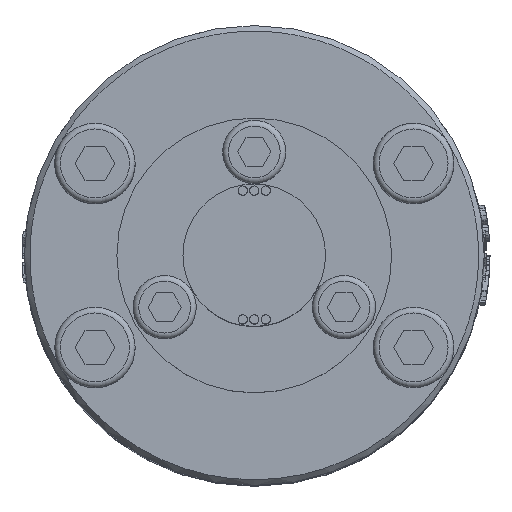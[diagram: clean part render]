
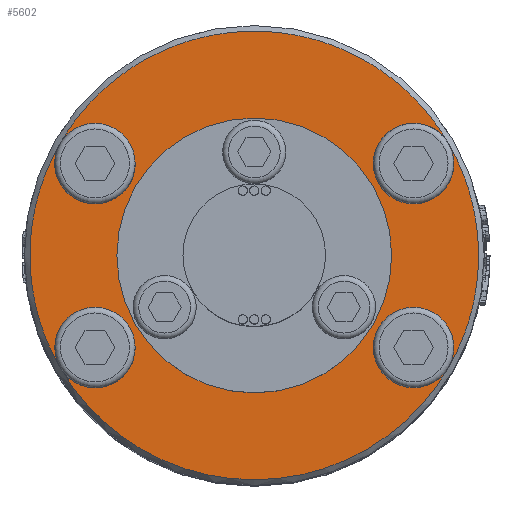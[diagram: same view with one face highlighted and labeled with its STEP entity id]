
A CAD part, top view. The second image highlights one B-rep face of the part: STEP entity #5602.
In plain terms, the highlighted planar face has unit normal (0, 0, 1).
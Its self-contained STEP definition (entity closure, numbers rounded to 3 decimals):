
#5196=FACE_BOUND('',#8340,.T.);
#5197=FACE_BOUND('',#8341,.T.);
#5602=ADVANCED_FACE('',(#5196,#5197),#6772,.T.);
#6772=PLANE('',#21143);
#8340=EDGE_LOOP('',(#9884,#9885,#9886,#9887,#9888,#9889,#9890,#9891));
#8341=EDGE_LOOP('',(#9892));
#9884=ORIENTED_EDGE('',*,*,#17884,.T.);
#9885=ORIENTED_EDGE('',*,*,#17804,.F.);
#9886=ORIENTED_EDGE('',*,*,#17883,.T.);
#9887=ORIENTED_EDGE('',*,*,#17867,.F.);
#9888=ORIENTED_EDGE('',*,*,#17882,.T.);
#9889=ORIENTED_EDGE('',*,*,#17846,.F.);
#9890=ORIENTED_EDGE('',*,*,#17885,.T.);
#9891=ORIENTED_EDGE('',*,*,#17825,.F.);
#9892=ORIENTED_EDGE('',*,*,#17791,.F.);
#15725=VERTEX_POINT('',#25065);
#15738=VERTEX_POINT('',#25101);
#15753=VERTEX_POINT('',#25147);
#15768=VERTEX_POINT('',#25193);
#15783=VERTEX_POINT('',#25239);
#17791=EDGE_CURVE('',#15725,#15725,#20808,.T.);
#17804=EDGE_CURVE('',#15738,#15738,#20815,.T.);
#17825=EDGE_CURVE('',#15753,#15753,#20818,.T.);
#17846=EDGE_CURVE('',#15768,#15768,#20821,.T.);
#17867=EDGE_CURVE('',#15783,#15783,#20824,.T.);
#17882=EDGE_CURVE('',#15783,#15768,#20827,.T.);
#17883=EDGE_CURVE('',#15738,#15783,#20828,.T.);
#17884=EDGE_CURVE('',#15753,#15738,#20829,.T.);
#17885=EDGE_CURVE('',#15768,#15753,#20830,.T.);
#20808=CIRCLE('',#21067,11.95);
#20815=CIRCLE('',#21084,3.5);
#20818=CIRCLE('',#21097,3.5);
#20821=CIRCLE('',#21110,3.5);
#20824=CIRCLE('',#21123,3.5);
#20827=CIRCLE('',#21136,19.5);
#20828=CIRCLE('',#21137,19.5);
#20829=CIRCLE('',#21138,19.5);
#20830=CIRCLE('',#21139,19.5);
#21067=AXIS2_PLACEMENT_3D('',#25064,#22057,#22058);
#21084=AXIS2_PLACEMENT_3D('',#25100,#22097,#22098);
#21097=AXIS2_PLACEMENT_3D('',#25146,#22141,#22142);
#21110=AXIS2_PLACEMENT_3D('',#25192,#22185,#22186);
#21123=AXIS2_PLACEMENT_3D('',#25238,#22229,#22230);
#21136=AXIS2_PLACEMENT_3D('',#25272,#22267,#22268);
#21137=AXIS2_PLACEMENT_3D('',#25273,#22269,#22270);
#21138=AXIS2_PLACEMENT_3D('',#25274,#22271,#22272);
#21139=AXIS2_PLACEMENT_3D('',#25275,#22273,#22274);
#21143=AXIS2_PLACEMENT_3D('',#25280,#22281,#22282);
#22057=DIRECTION('',(0.,0.,1.));
#22058=DIRECTION('',(0.,1.,0.));
#22097=DIRECTION('',(0.,0.,1.));
#22098=DIRECTION('',(1.,0.,0.));
#22141=DIRECTION('',(0.,0.,1.));
#22142=DIRECTION('',(1.,0.,0.));
#22185=DIRECTION('',(0.,0.,1.));
#22186=DIRECTION('',(1.,0.,0.));
#22229=DIRECTION('',(0.,0.,1.));
#22230=DIRECTION('',(1.,0.,0.));
#22267=DIRECTION('',(0.,0.,1.));
#22268=DIRECTION('',(1.,0.,0.));
#22269=DIRECTION('',(0.,0.,1.));
#22270=DIRECTION('',(1.,0.,0.));
#22271=DIRECTION('',(0.,0.,1.));
#22272=DIRECTION('',(1.,0.,0.));
#22273=DIRECTION('',(0.,0.,1.));
#22274=DIRECTION('',(1.,0.,0.));
#22281=DIRECTION('',(0.,0.,1.));
#22282=DIRECTION('',(1.,0.,0.));
#25064=CARTESIAN_POINT('',(0.,0.,63.));
#25065=CARTESIAN_POINT('',(0.,11.95,63.));
#25100=CARTESIAN_POINT('',(13.856,8.,63.));
#25101=CARTESIAN_POINT('',(16.887,9.75,63.));
#25146=CARTESIAN_POINT('',(13.856,-8.,63.));
#25147=CARTESIAN_POINT('',(16.887,-9.75,63.));
#25192=CARTESIAN_POINT('',(-13.856,-8.,63.));
#25193=CARTESIAN_POINT('',(-16.887,-9.75,63.));
#25238=CARTESIAN_POINT('',(-13.856,8.,63.));
#25239=CARTESIAN_POINT('',(-16.887,9.75,63.));
#25272=CARTESIAN_POINT('',(0.,0.,63.));
#25273=CARTESIAN_POINT('',(0.,0.,63.));
#25274=CARTESIAN_POINT('',(0.,0.,63.));
#25275=CARTESIAN_POINT('',(0.,0.,63.));
#25280=CARTESIAN_POINT('',(0.,0.,63.));
